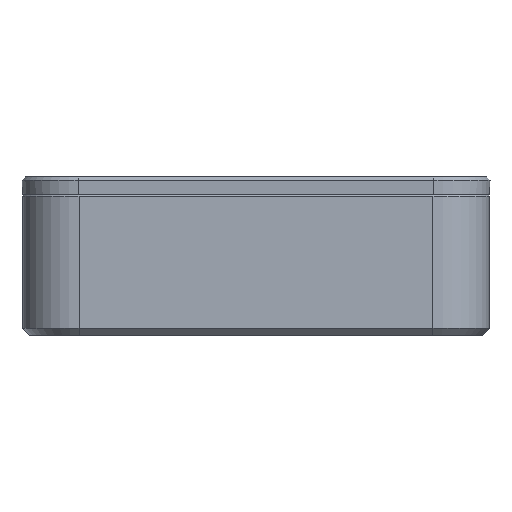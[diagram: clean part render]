
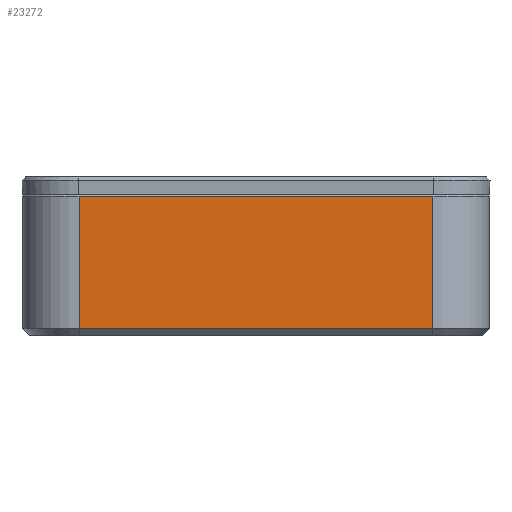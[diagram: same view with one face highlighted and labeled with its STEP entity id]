
A CAD part, front view. The second image highlights one B-rep face of the part: STEP entity #23272.
In plain terms, the highlighted planar face has unit normal (0, -1, 0).
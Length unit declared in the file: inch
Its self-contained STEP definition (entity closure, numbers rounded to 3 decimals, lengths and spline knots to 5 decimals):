
#1574=PLANE('',#24852);
#2909=LINE('',#35569,#5211);
#2920=LINE('',#35598,#5222);
#2921=LINE('',#35602,#5223);
#2922=LINE('',#35603,#5224);
#5211=VECTOR('',#27729,0.3937);
#5222=VECTOR('',#27760,0.3937);
#5223=VECTOR('',#27765,0.3937);
#5224=VECTOR('',#27766,0.3937);
#7444=FACE_OUTER_BOUND('',#8892,.T.);
#8892=EDGE_LOOP('',(#18368,#18369,#18370,#18371));
#10993=VERTEX_POINT('',#35563);
#10994=VERTEX_POINT('',#35567);
#11002=VERTEX_POINT('',#35597);
#11003=VERTEX_POINT('',#35601);
#13695=EDGE_CURVE('',#10993,#10994,#2909,.T.);
#13709=EDGE_CURVE('',#11002,#10994,#2920,.T.);
#13711=EDGE_CURVE('',#11003,#10993,#2921,.T.);
#13712=EDGE_CURVE('',#11002,#11003,#2922,.T.);
#18368=ORIENTED_EDGE('',*,*,#13695,.F.);
#18369=ORIENTED_EDGE('',*,*,#13711,.F.);
#18370=ORIENTED_EDGE('',*,*,#13712,.F.);
#18371=ORIENTED_EDGE('',*,*,#13709,.T.);
#23272=ADVANCED_FACE('',(#7444),#1574,.T.);
#24852=AXIS2_PLACEMENT_3D('',#35600,#27763,#27764);
#27729=DIRECTION('',(1.,0.,0.));
#27760=DIRECTION('',(0.,0.,1.));
#27763=DIRECTION('center_axis',(0.,-1.,0.));
#27764=DIRECTION('ref_axis',(0.,0.,-1.));
#27765=DIRECTION('',(0.,0.,1.));
#27766=DIRECTION('',(-1.,0.,0.));
#35563=CARTESIAN_POINT('',(0.5,-4.143,1.235));
#35567=CARTESIAN_POINT('',(3.643,-4.143,1.235));
#35569=CARTESIAN_POINT('',(3.10725,-4.143,1.235));
#35597=CARTESIAN_POINT('',(3.643,-4.143,0.0625));
#35598=CARTESIAN_POINT('',(3.643,-4.143,1.25));
#35600=CARTESIAN_POINT('Origin',(4.143,-4.143,0.));
#35601=CARTESIAN_POINT('',(0.5,-4.143,0.0625));
#35602=CARTESIAN_POINT('',(0.5,-4.143,1.25));
#35603=CARTESIAN_POINT('',(3.10725,-4.143,0.0625));
